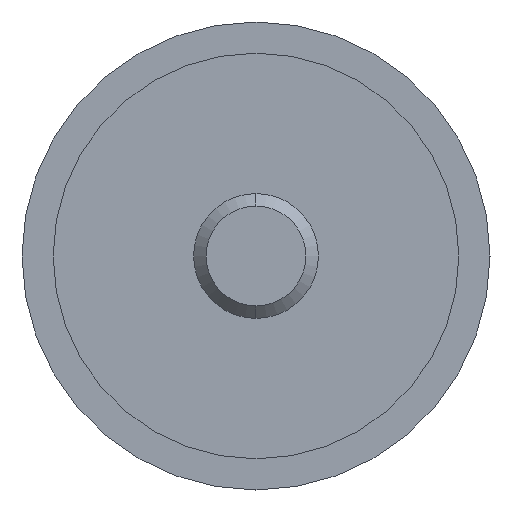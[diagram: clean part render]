
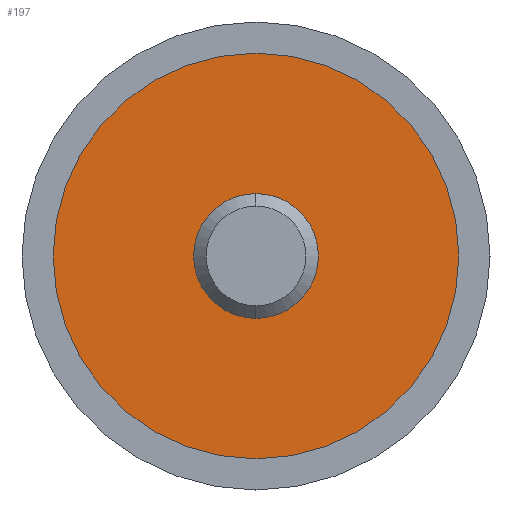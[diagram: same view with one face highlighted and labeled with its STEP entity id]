
A CAD part, left-side view. The second image highlights one B-rep face of the part: STEP entity #197.
In plain terms, the highlighted planar face has unit normal (-1, 0, 0).
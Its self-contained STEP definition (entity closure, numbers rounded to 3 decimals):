
#20 = CARTESIAN_POINT ( 'NONE',  ( -19.99, 0., -4. ) ) ;
#25 = FACE_BOUND ( 'NONE', #127, .T. ) ;
#28 = CARTESIAN_POINT ( 'NONE',  ( -19.99, 0., 4. ) ) ;
#49 = DIRECTION ( 'NONE',  ( -1., 0., 0. ) ) ;
#56 = AXIS2_PLACEMENT_3D ( 'NONE', #565, #49, #251 ) ;
#63 = AXIS2_PLACEMENT_3D ( 'NONE', #616, #562, #103 ) ;
#76 = EDGE_LOOP ( 'NONE', ( #132, #508 ) ) ;
#103 = DIRECTION ( 'NONE',  ( 0., 0., 1. ) ) ;
#127 = EDGE_LOOP ( 'NONE', ( #238, #663 ) ) ;
#130 = FACE_OUTER_BOUND ( 'NONE', #76, .T. ) ;
#132 = ORIENTED_EDGE ( 'NONE', *, *, #567, .T. ) ;
#153 = DIRECTION ( 'NONE',  ( -1., 0., 0. ) ) ;
#197 = ADVANCED_FACE ( 'NONE', ( #130, #25 ), #343, .F. ) ;
#209 = VERTEX_POINT ( 'NONE', #28 ) ;
#223 = CIRCLE ( 'NONE', #63, 13. ) ;
#234 = CARTESIAN_POINT ( 'NONE',  ( -19.99, 0., 0. ) ) ;
#237 = DIRECTION ( 'NONE',  ( -1., 0., 0. ) ) ;
#238 = ORIENTED_EDGE ( 'NONE', *, *, #312, .F. ) ;
#251 = DIRECTION ( 'NONE',  ( 0., 0., -1. ) ) ;
#288 = DIRECTION ( 'NONE',  ( 1., 0., 0. ) ) ;
#291 = CARTESIAN_POINT ( 'NONE',  ( -19.99, 0., 0. ) ) ;
#295 = EDGE_CURVE ( 'NONE', #402, #335, #223, .T. ) ;
#308 = AXIS2_PLACEMENT_3D ( 'NONE', #291, #153, #561 ) ;
#312 = EDGE_CURVE ( 'NONE', #209, #673, #366, .T. ) ;
#325 = CIRCLE ( 'NONE', #308, 13. ) ;
#335 = VERTEX_POINT ( 'NONE', #359 ) ;
#343 = PLANE ( 'NONE',  #460 ) ;
#359 = CARTESIAN_POINT ( 'NONE',  ( -19.99, 0., 13. ) ) ;
#366 = CIRCLE ( 'NONE', #56, 4. ) ;
#402 = VERTEX_POINT ( 'NONE', #626 ) ;
#460 = AXIS2_PLACEMENT_3D ( 'NONE', #549, #288, #497 ) ;
#472 = CIRCLE ( 'NONE', #559, 4. ) ;
#497 = DIRECTION ( 'NONE',  ( 0., 0., -1. ) ) ;
#508 = ORIENTED_EDGE ( 'NONE', *, *, #295, .T. ) ;
#549 = CARTESIAN_POINT ( 'NONE',  ( -19.99, 13., 0. ) ) ;
#559 = AXIS2_PLACEMENT_3D ( 'NONE', #234, #237, #641 ) ;
#561 = DIRECTION ( 'NONE',  ( 0., 0., 1. ) ) ;
#562 = DIRECTION ( 'NONE',  ( -1., 0., 0. ) ) ;
#565 = CARTESIAN_POINT ( 'NONE',  ( -19.99, 0., 0. ) ) ;
#567 = EDGE_CURVE ( 'NONE', #335, #402, #325, .T. ) ;
#616 = CARTESIAN_POINT ( 'NONE',  ( -19.99, 0., 0. ) ) ;
#626 = CARTESIAN_POINT ( 'NONE',  ( -19.99, 0., -13. ) ) ;
#641 = DIRECTION ( 'NONE',  ( 0., 0., -1. ) ) ;
#663 = ORIENTED_EDGE ( 'NONE', *, *, #679, .F. ) ;
#673 = VERTEX_POINT ( 'NONE', #20 ) ;
#679 = EDGE_CURVE ( 'NONE', #673, #209, #472, .T. ) ;
